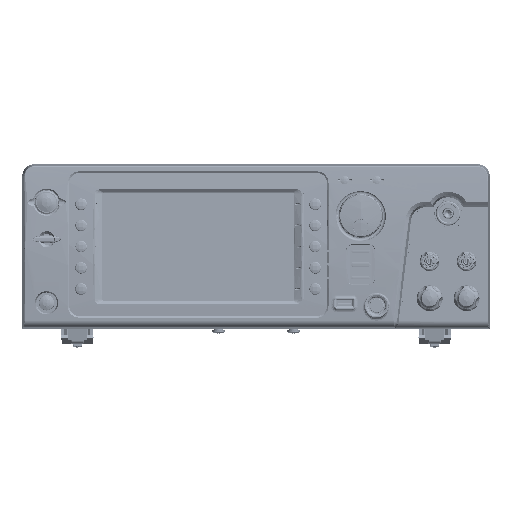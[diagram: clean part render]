
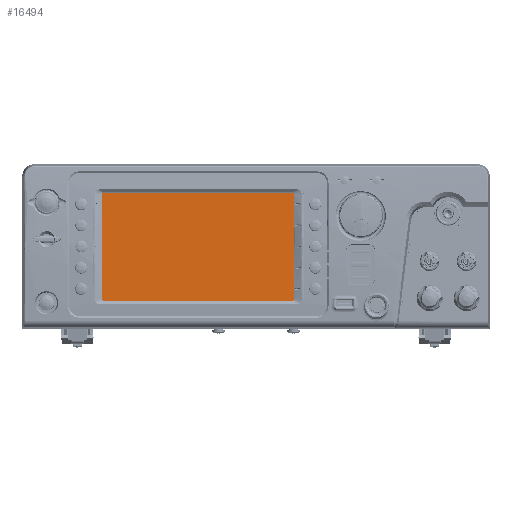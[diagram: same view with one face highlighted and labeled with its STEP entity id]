
A CAD part, top view. The second image highlights one B-rep face of the part: STEP entity #16494.
In plain terms, the highlighted planar face has unit normal (0, 0, 1).
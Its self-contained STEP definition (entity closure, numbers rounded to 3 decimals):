
#16379=DIRECTION('',(-1.,0.,0.));
#16380=VECTOR('',#16379,164.);
#16381=CARTESIAN_POINT('',(83.,48.,1.1));
#16382=LINE('',#16381,#16380);
#16383=DIRECTION('',(0.,1.,0.));
#16384=VECTOR('',#16383,100.);
#16385=CARTESIAN_POINT('',(83.,-52.,1.1));
#16386=LINE('',#16385,#16384);
#16387=DIRECTION('',(1.,0.,0.));
#16388=VECTOR('',#16387,164.);
#16389=CARTESIAN_POINT('',(-81.,-52.,1.1));
#16390=LINE('',#16389,#16388);
#16391=DIRECTION('',(0.,-1.,0.));
#16392=VECTOR('',#16391,100.);
#16393=CARTESIAN_POINT('',(-81.,48.,1.1));
#16394=LINE('',#16393,#16392);
#16403=CARTESIAN_POINT('',(83.,48.,1.1));
#16404=CARTESIAN_POINT('',(-81.,48.,1.1));
#16405=VERTEX_POINT('',#16403);
#16406=VERTEX_POINT('',#16404);
#16407=CARTESIAN_POINT('',(-81.,-52.,1.1));
#16408=VERTEX_POINT('',#16407);
#16409=CARTESIAN_POINT('',(83.,-52.,1.1));
#16410=VERTEX_POINT('',#16409);
#16483=CARTESIAN_POINT('',(0.,0.,1.1));
#16484=DIRECTION('',(0.,0.,1.));
#16485=DIRECTION('',(1.,0.,0.));
#16486=AXIS2_PLACEMENT_3D('',#16483,#16484,#16485);
#16487=PLANE('',#16486);
#16488=ORIENTED_EDGE('',*,*,#16435,.F.);
#16489=ORIENTED_EDGE('',*,*,#16450,.F.);
#16490=ORIENTED_EDGE('',*,*,#16464,.F.);
#16491=ORIENTED_EDGE('',*,*,#16477,.F.);
#16492=EDGE_LOOP('',(#16488,#16489,#16490,#16491));
#16493=FACE_OUTER_BOUND('',#16492,.F.);
#16494=ADVANCED_FACE('',(#16493),#16487,.T.);
#16435=EDGE_CURVE('',#16405,#16406,#16382,.T.);
#16450=EDGE_CURVE('',#16410,#16405,#16386,.T.);
#16464=EDGE_CURVE('',#16408,#16410,#16390,.T.);
#16477=EDGE_CURVE('',#16406,#16408,#16394,.T.);
